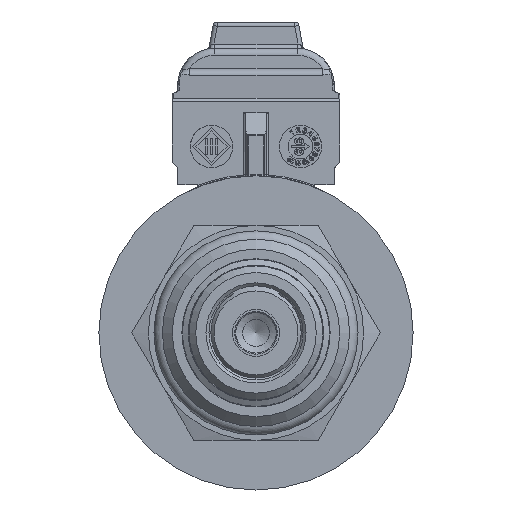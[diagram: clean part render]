
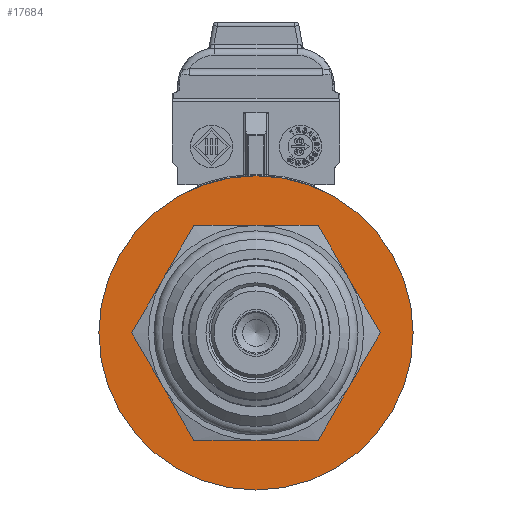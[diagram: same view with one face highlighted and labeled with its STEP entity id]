
A CAD part, front view. The second image highlights one B-rep face of the part: STEP entity #17684.
In plain terms, the highlighted planar face has unit normal (0, -1, 0).
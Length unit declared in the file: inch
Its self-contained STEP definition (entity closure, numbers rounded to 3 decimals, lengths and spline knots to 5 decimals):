
#523=PLANE('',#19643);
#711=FACE_BOUND('',#3104,.T.);
#2046=FACE_OUTER_BOUND('',#3103,.T.);
#3103=EDGE_LOOP('',(#15492,#15493));
#3104=EDGE_LOOP('',(#15494,#15495));
#3866=CIRCLE('',#18874,0.73031);
#3867=CIRCLE('',#18875,0.73031);
#3880=CIRCLE('',#18889,0.37402);
#3881=CIRCLE('',#18890,0.37402);
#7253=VERTEX_POINT('',#33011);
#7254=VERTEX_POINT('',#33012);
#7281=VERTEX_POINT('',#33167);
#7282=VERTEX_POINT('',#33169);
#9379=EDGE_CURVE('',#7253,#7254,#3866,.T.);
#9380=EDGE_CURVE('',#7254,#7253,#3867,.T.);
#9409=EDGE_CURVE('',#7281,#7282,#3880,.T.);
#9410=EDGE_CURVE('',#7282,#7281,#3881,.T.);
#15492=ORIENTED_EDGE('',*,*,#9379,.T.);
#15493=ORIENTED_EDGE('',*,*,#9380,.T.);
#15494=ORIENTED_EDGE('',*,*,#9410,.F.);
#15495=ORIENTED_EDGE('',*,*,#9409,.F.);
#17684=ADVANCED_FACE('',(#2046,#711),#523,.T.);
#18874=AXIS2_PLACEMENT_3D('',#33013,#22353,#22354);
#18875=AXIS2_PLACEMENT_3D('',#33014,#22355,#22356);
#18889=AXIS2_PLACEMENT_3D('',#33170,#22389,#22390);
#18890=AXIS2_PLACEMENT_3D('',#33171,#22391,#22392);
#19643=AXIS2_PLACEMENT_3D('',#38560,#24547,#24548);
#22353=DIRECTION('center_axis',(0.,-1.,0.));
#22354=DIRECTION('ref_axis',(1.,0.,0.));
#22355=DIRECTION('center_axis',(0.,-1.,0.));
#22356=DIRECTION('ref_axis',(1.,0.,0.));
#22389=DIRECTION('center_axis',(0.,-1.,0.));
#22390=DIRECTION('ref_axis',(1.,0.,0.));
#22391=DIRECTION('center_axis',(0.,-1.,0.));
#22392=DIRECTION('ref_axis',(1.,0.,0.));
#24547=DIRECTION('center_axis',(0.,-1.,0.));
#24548=DIRECTION('ref_axis',(1.,0.,0.));
#33011=CARTESIAN_POINT('',(-1.22565,-0.7687,0.));
#33012=CARTESIAN_POINT('',(-2.68628,-0.7687,0.));
#33013=CARTESIAN_POINT('Origin',(-1.95597,-0.7687,0.));
#33014=CARTESIAN_POINT('Origin',(-1.95597,-0.7687,0.));
#33167=CARTESIAN_POINT('',(-2.32998,-0.7687,0.));
#33169=CARTESIAN_POINT('',(-1.58195,-0.7687,0.));
#33170=CARTESIAN_POINT('Origin',(-1.95597,-0.7687,0.));
#33171=CARTESIAN_POINT('Origin',(-1.95597,-0.7687,0.));
#38560=CARTESIAN_POINT('Origin',(-1.95597,-0.7687,0.));
